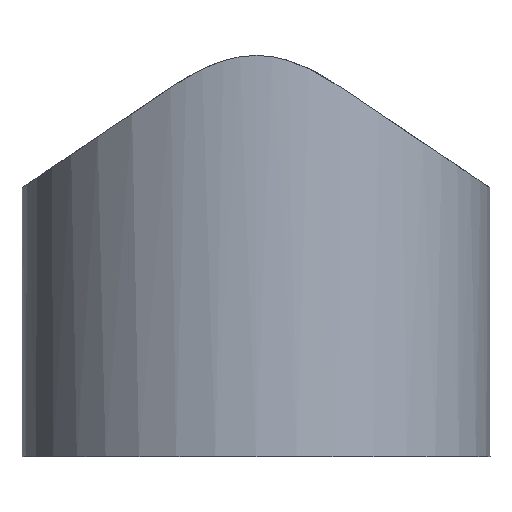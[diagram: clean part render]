
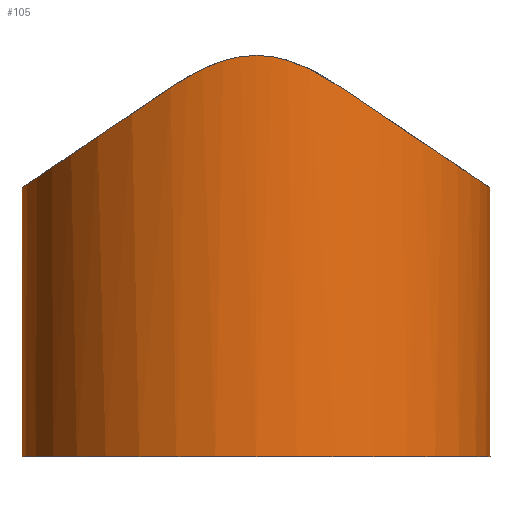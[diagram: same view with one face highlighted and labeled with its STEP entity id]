
A CAD part, left-side view. The second image highlights one B-rep face of the part: STEP entity #105.
In plain terms, the highlighted cylindrical face has radius 4.445 mm (diameter 8.89 mm), a full revolution.
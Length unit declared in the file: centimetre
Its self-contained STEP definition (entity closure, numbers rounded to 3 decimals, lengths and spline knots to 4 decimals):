
#34=CIRCLE('',#112,0.4445);
#35=CYLINDRICAL_SURFACE('',#111,0.4445);
#36=B_SPLINE_CURVE_WITH_KNOTS('',3,(#152,#153,#154,#155,#156,#157,#158,#159),
 .UNSPECIFIED.,.F.,.U.,(4,2,2,4),(0.,0.0602,0.0851,
0.1099),.UNSPECIFIED.);
#37=B_SPLINE_CURVE_WITH_KNOTS('',3,(#161,#162,#163,#164,#165,#166,#167,#168),
 .UNSPECIFIED.,.F.,.U.,(4,2,2,4),(0.,0.0427,0.0899,
0.1248),.UNSPECIFIED.);
#38=B_SPLINE_CURVE_WITH_KNOTS('',3,(#185,#186,#187,#188,#189,#190),.UNSPECIFIED.,
 .F.,.U.,(4,2,4),(0.,0.0649,0.1765),.UNSPECIFIED.);
#39=B_SPLINE_CURVE_WITH_KNOTS('',3,(#191,#192,#193,#194,#195,#196,#197,#198),
 .UNSPECIFIED.,.F.,.U.,(4,2,2,4),(0.,0.04,0.1321,
0.2576),.UNSPECIFIED.);
#48=VERTEX_POINT('',#130);
#49=VERTEX_POINT('',#131);
#50=VERTEX_POINT('',#135);
#51=VERTEX_POINT('',#136);
#52=VERTEX_POINT('',#160);
#53=VERTEX_POINT('',#169);
#54=VERTEX_POINT('',#201);
#55=ELLIPSE('',#108,0.5358,0.4445);
#56=ELLIPSE('',#110,0.5358,0.4445);
#57=EDGE_CURVE('',#48,#49,#55,.T.);
#59=EDGE_CURVE('',#50,#51,#56,.T.);
#61=EDGE_CURVE('',#51,#52,#36,.T.);
#62=EDGE_CURVE('',#53,#50,#37,.T.);
#64=EDGE_CURVE('',#52,#48,#38,.T.);
#65=EDGE_CURVE('',#49,#53,#39,.T.);
#66=EDGE_CURVE('',#54,#54,#34,.T.);
#79=ORIENTED_EDGE('',*,*,#59,.T.);
#80=ORIENTED_EDGE('',*,*,#61,.T.);
#81=ORIENTED_EDGE('',*,*,#64,.T.);
#82=ORIENTED_EDGE('',*,*,#57,.T.);
#83=ORIENTED_EDGE('',*,*,#65,.T.);
#84=ORIENTED_EDGE('',*,*,#62,.T.);
#85=ORIENTED_EDGE('',*,*,#66,.T.);
#91=EDGE_LOOP('',(#79,#80,#81,#82,#83,#84));
#92=EDGE_LOOP('',(#85));
#98=FACE_BOUND('',#91,.T.);
#99=FACE_BOUND('',#92,.T.);
#105=ADVANCED_FACE('',(#98,#99),#35,.T.);
#108=AXIS2_PLACEMENT_3D('',#129,#115,#116);
#110=AXIS2_PLACEMENT_3D('',#134,#119,#120);
#111=AXIS2_PLACEMENT_3D('',#199,#123,#124);
#112=AXIS2_PLACEMENT_3D('',#200,#125,#126);
#115=DIRECTION('',(0.,0.558,-0.83));
#116=DIRECTION('',(0.,0.445,0.299));
#119=DIRECTION('',(0.,-0.558,-0.83));
#120=DIRECTION('',(0.,0.445,-0.299));
#123=DIRECTION('',(0.,0.,1.));
#124=DIRECTION('',(0.445,0.,0.));
#125=DIRECTION('',(0.,0.,1.));
#126=DIRECTION('',(0.445,0.,0.));
#129=CARTESIAN_POINT('',(0.,0.,0.8099));
#130=CARTESIAN_POINT('',(0.414,-0.1618,0.701));
#131=CARTESIAN_POINT('',(-0.414,-0.1618,0.701));
#134=CARTESIAN_POINT('',(0.,0.,0.8099));
#135=CARTESIAN_POINT('',(-0.414,0.1618,0.701));
#136=CARTESIAN_POINT('',(0.414,0.1618,0.701));
#152=CARTESIAN_POINT('',(0.414,0.1618,0.701));
#153=CARTESIAN_POINT('',(0.4202,0.146,0.7117));
#154=CARTESIAN_POINT('',(0.4297,0.1186,0.7296));
#155=CARTESIAN_POINT('',(0.4387,0.0728,0.7488));
#156=CARTESIAN_POINT('',(0.4408,0.0588,0.7536));
#157=CARTESIAN_POINT('',(0.4437,0.0297,0.7601));
#158=CARTESIAN_POINT('',(0.4445,0.0149,0.762));
#159=CARTESIAN_POINT('',(0.4445,0.,0.762));
#160=CARTESIAN_POINT('',(0.4445,0.,0.762));
#161=CARTESIAN_POINT('',(-0.4445,0.,0.762));
#162=CARTESIAN_POINT('',(-0.4445,0.0142,0.762));
#163=CARTESIAN_POINT('',(-0.4438,0.0284,0.7603));
#164=CARTESIAN_POINT('',(-0.441,0.0576,0.754));
#165=CARTESIAN_POINT('',(-0.4383,0.0786,0.7477));
#166=CARTESIAN_POINT('',(-0.4271,0.1249,0.7247));
#167=CARTESIAN_POINT('',(-0.4209,0.144,0.713));
#168=CARTESIAN_POINT('',(-0.414,0.1618,0.701));
#169=CARTESIAN_POINT('',(-0.4445,0.,0.762));
#185=CARTESIAN_POINT('',(0.4445,0.,0.762));
#186=CARTESIAN_POINT('',(0.4445,-0.0216,0.762));
#187=CARTESIAN_POINT('',(0.4429,-0.0431,0.7581));
#188=CARTESIAN_POINT('',(0.4349,-0.0987,0.7404));
#189=CARTESIAN_POINT('',(0.4255,-0.1324,0.7209));
#190=CARTESIAN_POINT('',(0.414,-0.1618,0.701));
#191=CARTESIAN_POINT('',(-0.414,-0.1618,0.701));
#192=CARTESIAN_POINT('',(-0.4181,-0.1513,0.7081));
#193=CARTESIAN_POINT('',(-0.4219,-0.1405,0.715));
#194=CARTESIAN_POINT('',(-0.4329,-0.1041,0.7361));
#195=CARTESIAN_POINT('',(-0.4368,-0.0838,0.7448));
#196=CARTESIAN_POINT('',(-0.4426,-0.0462,0.7575));
#197=CARTESIAN_POINT('',(-0.4445,-0.0232,0.762));
#198=CARTESIAN_POINT('',(-0.4445,0.,0.762));
#199=CARTESIAN_POINT('',(0.,0.,0.));
#200=CARTESIAN_POINT('',(0.,0.,0.));
#201=CARTESIAN_POINT('',(0.4445,0.,0.));
